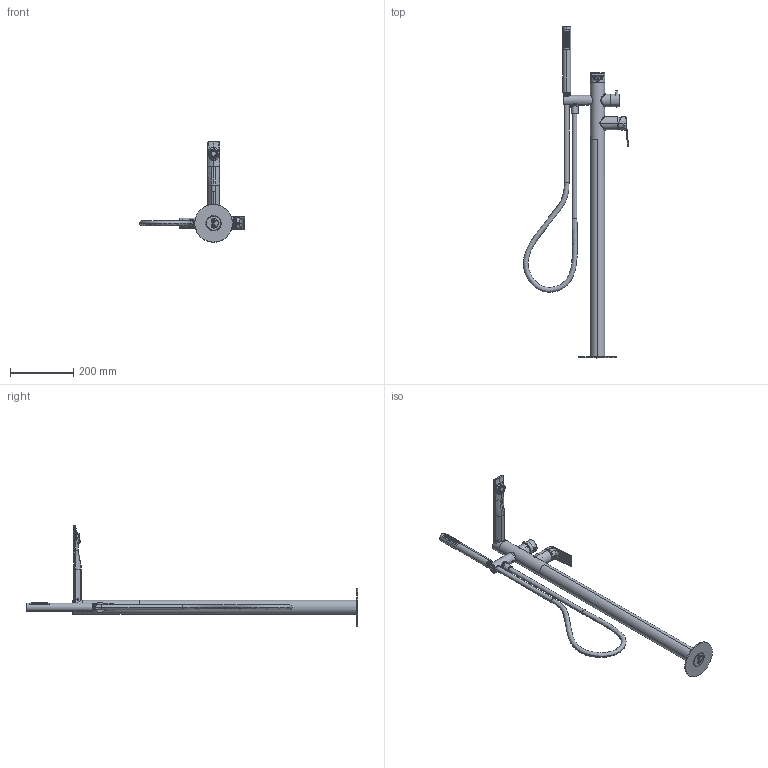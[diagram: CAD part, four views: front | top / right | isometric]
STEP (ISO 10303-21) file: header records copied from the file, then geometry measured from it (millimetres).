
FILE_DESCRIPTION((''),'2;1');
FILE_NAME('78594_SW0001','2025-02-13T15:12:57',('volponeff'),(''),'CREO PARAMETRIC BY PTC INC, 2022014','CREO PARAMETRIC BY PTC INC, 2022014','');
FILE_SCHEMA(('CONFIG_CONTROL_DESIGN'));
Products named in the file (1): 78594_SW0001
Bounding box: 332.55 x 1051.1 x 317.94 mm (x, y, z)
Volume: 1359264.8 mm3; surface area: 568733.2 mm2
Topology: 7 solids, 7 shells, 1898 faces, 4549 edges, 2781 vertices
Faces by surface type: cylinder 868, plane 363, cone 266, bspline 232, torus 133, sphere 30, extrusion 6
Entity records: 127831 total; most frequent: CARTESIAN_POINT 86028, ORIENTED_EDGE 9034, DIRECTION 8179, EDGE_CURVE 4517, AXIS2_PLACEMENT_3D 3316, VERTEX_POINT 2781, EDGE_LOOP 2098, FACE_OUTER_BOUND 1898
